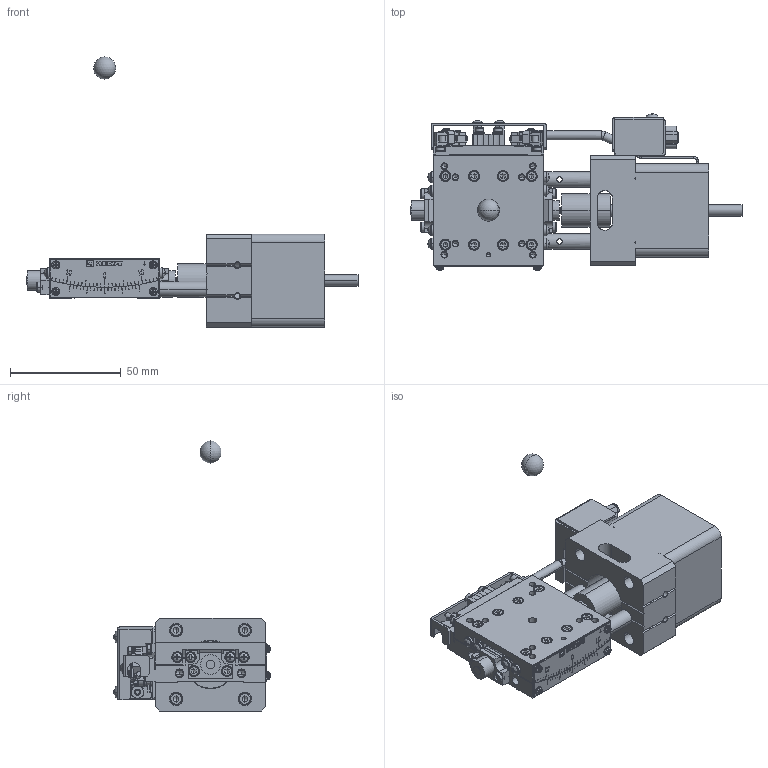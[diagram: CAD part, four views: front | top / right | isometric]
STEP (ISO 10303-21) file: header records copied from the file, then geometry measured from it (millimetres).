
FILE_DESCRIPTION( (''), '2;1');
FILE_NAME ('MVSA05B-RB02.stp','2021-10-05T16:27:02',(''),(''),'spGate 17.5.5','','');
FILE_SCHEMA (('AUTOMOTIVE_DESIGN'));
Length unit declared in the file: millimetre
Products named in the file (4): Assembly; MVSA05B-RB02-prt0; MVSA05B-RB02-prt1; MVSA05B-RB02-prt2
Assembly tree (3 placements, depth 2):
  Assembly
    MVSA05B-RB02-prt0
    MVSA05B-RB02-prt1
    MVSA05B-RB02-prt2
Bounding box: 150 x 70.67 x 122 mm (x, y, z)
Volume: 149270.6 mm3; surface area: 54126.6 mm2
Topology: 3 solids, 6 shells, 3249 faces, 8055 edges, 4948 vertices
Faces by surface type: plane 1833, cylinder 911, bspline 448, sphere 57
Entity records: 164789 total; most frequent: CARTESIAN_POINT 26527, ORIENTED_EDGE 15842, DIRECTION 14733, COLOUR_RGB 11173, PRESENTATION_STYLE_ASSIGNMENT 11173, STYLED_ITEM 11173, EDGE_CURVE 7921, DRAUGHTING_PRE_DEFINED_CURVE_FONT 7921
